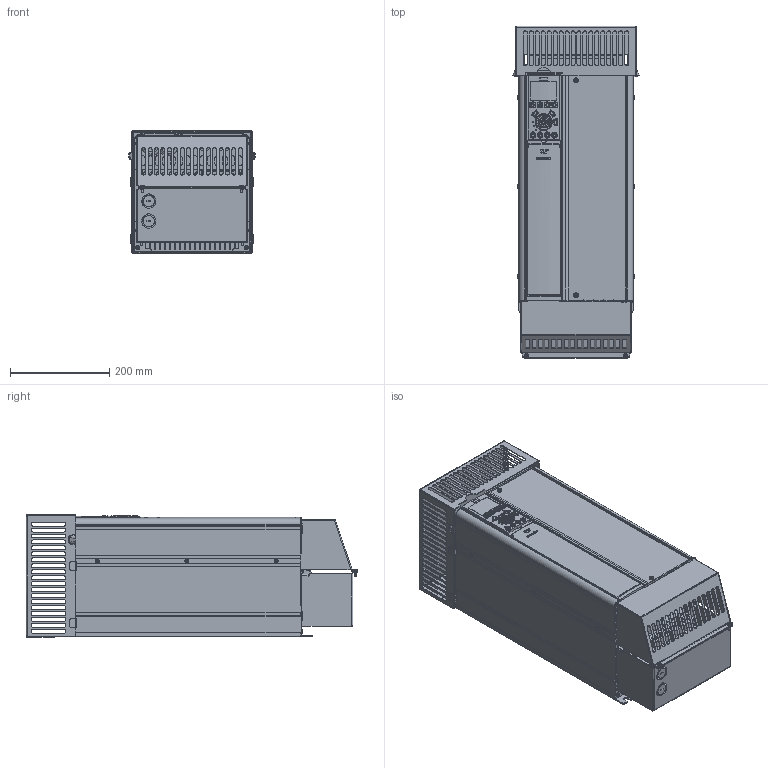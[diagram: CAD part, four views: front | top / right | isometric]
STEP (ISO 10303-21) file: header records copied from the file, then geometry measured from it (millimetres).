
FILE_DESCRIPTION((''),'2;1');
FILE_NAME('DANFOSS-FC300-B4-NEMA1-KIT-190','2008-07-15T',('Abhilash.Paramesh'),('dan Drives A/S'),'PRO/ENGINEER BY PARAMETRIC TECHNOLOGY CORPORATION, 2007160','PRO/ENGINEER BY PARAMETRIC TECHNOLOGY CORPORATION, 2007160','');
FILE_SCHEMA(('CONFIG_CONTROL_DESIGN', 'GEOMETRIC_VALIDATION_PROPERTIES_MIM'));
Products named in the file (1): DANFOSS-FC300-B4-NEMA1-KIT-190
Bounding box: 254.72 x 668 x 246 mm (x, y, z)
Volume: 22238185.9 mm3; surface area: 1825160.9 mm2
Topology: 1 solids, 33 shells, 5658 faces, 15459 edges, 9842 vertices
Faces by surface type: plane 2944, cylinder 1625, bspline 597, extrusion 175, torus 159, sphere 88, cone 70
Entity records: 245307 total; most frequent: CARTESIAN_POINT 80705, ORIENTED_EDGE 30764, DIRECTION 24999, EDGE_CURVE 15382, VERTEX_POINT 9842, VECTOR 8619, LINE 8444, AXIS2_PLACEMENT_3D 8190
